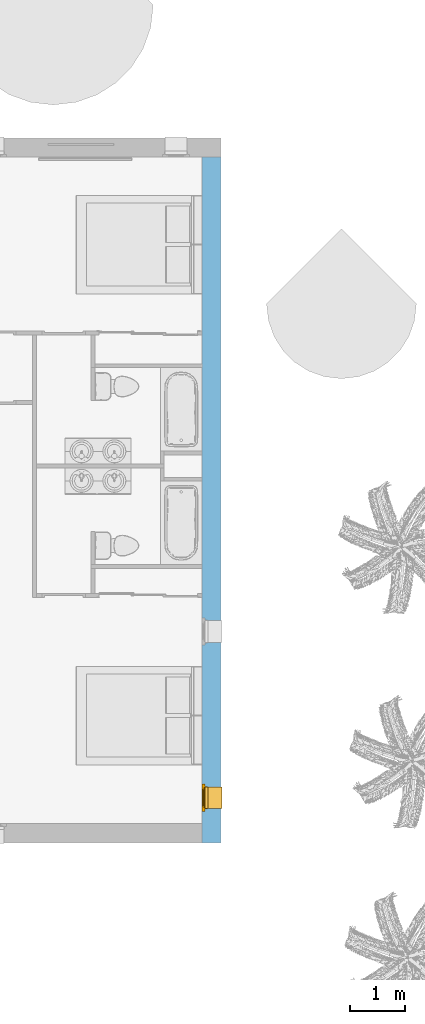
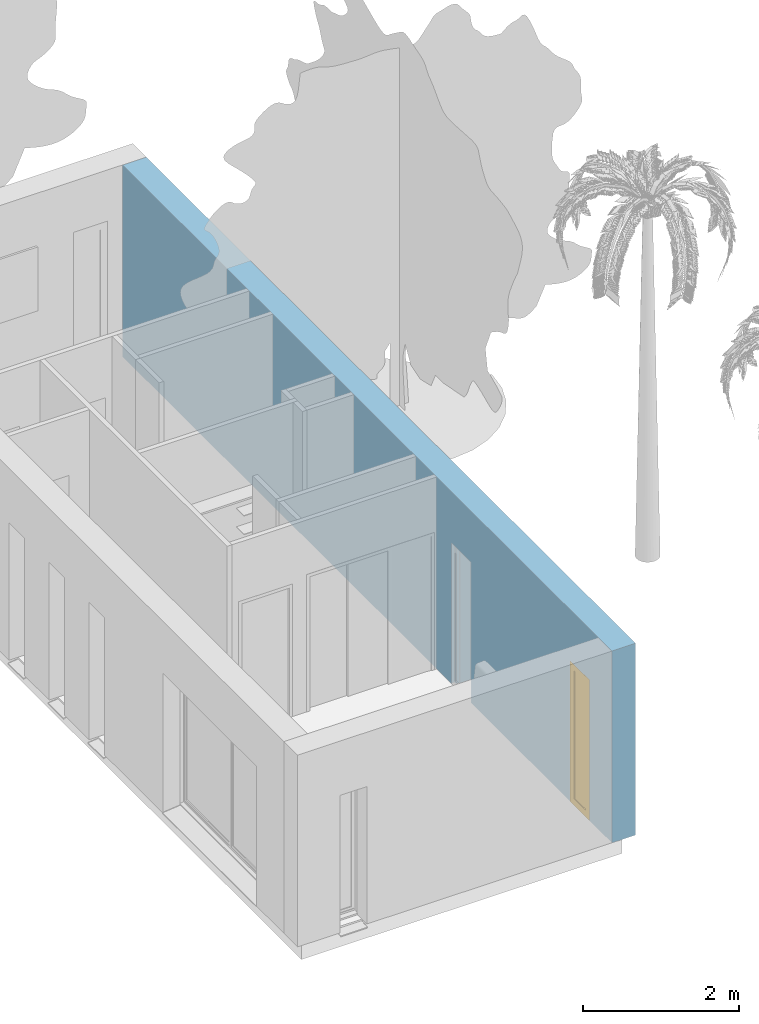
# One storey, part 16 of 40: 1 window, 2 openings, plus 1 element that does not belong to this part.
"""IFC2X3 building model written with IfcOpenShell, lengths in metres."""

from ifc_helpers import new_model, entity, si_unit, converted_unit, derived_unit, direction, frame, frame_2d, origin, place, context, subcontext, project, spatial, rectangle, extrude, faceted_brep, source, transform, mapped, material, material_list, layer, layer_set, layer_usage, type_object, type_shapes, element, fill, save


model = new_model("IFC2X3")

# Units and contexts
model_context = context("Model", 3, precision=1e-05, world=origin(), true_north=direction((6.12303176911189e-17, 1.0)))
body_context = subcontext(model_context, "Body", "Model", "MODEL_VIEW")
ifc_project = project(units=[si_unit("LENGTHUNIT", "METRE"), si_unit("AREAUNIT", "SQUARE_METRE"), si_unit("VOLUMEUNIT", "CUBIC_METRE"), converted_unit("PLANEANGLEUNIT", "DEGREE", entity("IfcRatioMeasure", 0.0174532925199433), si_unit("PLANEANGLEUNIT", "RADIAN"), dimensions=[0, 0, 0, 0, 0, 0, 0]), si_unit("MASSUNIT", "GRAM", prefix="KILO"), derived_unit("MASSDENSITYUNIT", [(si_unit("MASSUNIT", "GRAM", prefix="KILO"), 1), (si_unit("LENGTHUNIT", "METRE"), -3)]), si_unit("TIMEUNIT", "SECOND"), si_unit("FREQUENCYUNIT", "HERTZ"), si_unit("THERMODYNAMICTEMPERATUREUNIT", "DEGREE_CELSIUS"), derived_unit("THERMALTRANSMITTANCEUNIT", [(si_unit("MASSUNIT", "GRAM", prefix="KILO"), 1), (si_unit("THERMODYNAMICTEMPERATUREUNIT", "KELVIN"), -1), (si_unit("TIMEUNIT", "SECOND"), -3)]), derived_unit("VOLUMETRICFLOWRATEUNIT", [(si_unit("LENGTHUNIT", "METRE"), 3), (si_unit("TIMEUNIT", "SECOND"), -1)]), si_unit("ELECTRICCURRENTUNIT", "AMPERE"), si_unit("ELECTRICVOLTAGEUNIT", "VOLT"), si_unit("POWERUNIT", "WATT"), si_unit("FORCEUNIT", "NEWTON", prefix="KILO"), si_unit("ILLUMINANCEUNIT", "LUX"), si_unit("LUMINOUSFLUXUNIT", "LUMEN"), si_unit("LUMINOUSINTENSITYUNIT", "CANDELA"), derived_unit("USERDEFINED", [(si_unit("MASSUNIT", "GRAM", prefix="KILO"), -1), (si_unit("LENGTHUNIT", "METRE"), -2), (si_unit("TIMEUNIT", "SECOND"), 3), (si_unit("LUMINOUSFLUXUNIT", "LUMEN"), 1)]), derived_unit("LINEARVELOCITYUNIT", [(si_unit("LENGTHUNIT", "METRE"), 1), (si_unit("TIMEUNIT", "SECOND"), -1)]), si_unit("PRESSUREUNIT", "PASCAL"), derived_unit("USERDEFINED", [(si_unit("LENGTHUNIT", "METRE"), -2), (si_unit("MASSUNIT", "GRAM", prefix="KILO"), 1), (si_unit("TIMEUNIT", "SECOND"), -2)])], contexts=[model_context])

# Site, building, storey
site_placement = place(None, origin())
site = spatial("IfcSite", under=ifc_project, at=site_placement, Name="Surface", CompositionType="ELEMENT")
building_placement = place(site_placement, origin())
building = spatial("IfcBuilding", under=site, at=building_placement, CompositionType="ELEMENT")
storey_placement = place(building_placement, origin())
storey = spatial("IfcBuildingStorey", under=building, at=storey_placement, Name="RDC", CompositionType="ELEMENT", Elevation=-1.0941605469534e-13)

# Wall, openings, window
ifc_material_1 = material(Name="Bardage bois")
ifc_layer_1 = layer(ifc_material_1, 0.01)
ifc_material_2 = material(Name="Maçonnerie - Isolant")
ifc_layer_2 = layer(ifc_material_2, 0.12)
ifc_material_3 = material(Name="Blocs béton manufacturés")
ifc_layer_3 = layer(ifc_material_3, 0.2)
ifc_material_4 = material(Name="Par défaut")
ifc_layer_4 = layer(ifc_material_4, 0.01)
ifc_material_5 = material(Name="Plâtre")
ifc_layer_5 = layer(ifc_material_5, 0.01)
ifc_layer_set = layer_set([ifc_layer_1, ifc_layer_2, ifc_layer_3, ifc_layer_4, ifc_layer_5], Name="Mur de base:M8 Ext. Bois 2 + Isolant 12 +  BBMC 20 + vide 1 + ba13")
ifc_layer_usage = layer_usage(ifc_layer_set, "AXIS2", "NEGATIVE", 0.175)
wall_type = type_object("IfcWallType", Name="Mur de base:M8 Ext. Bois 2 + Isolant 12 +  BBMC 20 + vide 1 + ba13", PredefinedType="STANDARD", material=ifc_layer_set)
wall_placement = place(storey_placement, frame((16.6225111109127, 7.52701067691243, 0.0), z_axis=(0.0, 0.0, 1.0), x_axis=(0.0, -1.0, 0.0)))
wall = element("IfcWallStandardCase", 1, at=wall_placement, inside=storey, type_object=wall_type, material=ifc_layer_usage, Name="Mur de base:M8 Ext. Bois 2 + Isolant 12 +  BBMC 20 + vide 1 + ba13", ObjectType="Mur de base:M8 Ext. Bois 2 + Isolant 12 +  BBMC 20 + vide 1 + ba13", context=body_context, shape_type="SweptSolid", body=[
    extrude(rectangle(XDim=12.5399999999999, YDim=0.349999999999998, at=frame_2d((6.26999999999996, -2.91433543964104e-16), x_axis=(-1.0, 0.0))), origin(), (0.0, 0.0, 1.0), 2.99999999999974),
])
opening_1_placement = place(wall_placement, frame((11.9649999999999, -0.500000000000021, -0.0775370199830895), z_axis=(0.0, 0.0, 1.0), x_axis=(0.0, 1.0, 0.0)))
opening_1 = element("IfcOpeningElement", 2, at=opening_1_placement, cuts=wall, Name="Mur de base:M8 Ext. Bois 2 + Isolant 12 +  BBMC 20 + vide 1 + ba13", ObjectType="Opening", context=body_context, shape_type="Brep", body=[
    faceted_brep([(0.404999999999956, 0.0499999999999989, 0.077537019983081), (0.404999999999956, 0.0499999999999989, 0.062537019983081), (1.0, 0.0499999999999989, 0.0), (1.0, 0.0499999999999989, 2.22753701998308), (0.425000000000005, 0.0499999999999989, 2.22753701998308), (0.425000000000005, 0.0499999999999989, 0.0775370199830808), (0.0, 0.449999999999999, 0.077537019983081), (0.0, 0.449999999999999, 2.22753701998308), (0.325, 0.449999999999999, 2.22753701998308), (0.325, 0.449999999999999, 0.0775370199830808), (0.0, 0.0499999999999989, 0.077537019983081), (0.325000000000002, 0.499999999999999, 0.077537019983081), (0.375000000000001, 0.499999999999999, 0.077537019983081), (0.375000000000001, 0.459999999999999, 0.077537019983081), (0.425000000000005, 0.459999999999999, 0.077537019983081), (0.425000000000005, 0.449999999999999, 0.077537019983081), (0.404999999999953, 0.449999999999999, 0.0775370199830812), (0.425000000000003, 0.039999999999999, 0.077537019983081), (0.375000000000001, 0.039999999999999, 0.077537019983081), (0.375000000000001, 0.0, 0.077537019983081), (0.325000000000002, 0.0, 0.077537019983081), (0.325000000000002, 0.0499999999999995, 0.077537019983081), (0.0, 0.0499999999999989, 2.22753701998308), (0.325000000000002, 0.0499999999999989, 2.22753701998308), (1.0, 0.449999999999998, 0.0), (1.0, 0.449999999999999, 2.22753701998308), (0.404999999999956, 0.449999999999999, 0.062537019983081), (0.375000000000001, 0.0, 2.27753701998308), (0.325000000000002, 0.0, 2.27753701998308), (0.375000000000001, 0.039999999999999, 2.23753701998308), (0.375000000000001, 0.459999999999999, 2.23753701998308), (0.375000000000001, 0.499999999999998, 2.27753701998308), (0.425000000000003, 0.039999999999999, 2.23753701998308), (0.425000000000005, 0.449999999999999, 2.22753701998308), (0.425000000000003, 0.459999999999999, 2.23753701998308), (0.325000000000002, 0.499999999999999, 2.27753701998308)], [[[0, 1, 2, 3, 4, 5]], [[6, 7, 8, 9]], [[10, 6, 9, 11, 12, 13, 14, 15, 16, 0, 5, 17, 18, 19, 20, 21]], [[10, 22, 7, 6]], [[7, 22, 23, 8]], [[3, 2, 24, 25]], [[2, 1, 26, 24]], [[1, 0, 16, 26]], [[20, 19, 27, 28]], [[19, 18, 29, 30, 13, 12, 31, 27]], [[18, 17, 32, 29]], [[17, 5, 4, 33, 15, 14, 34, 32]], [[21, 20, 28, 35, 11, 9, 8, 23]], [[28, 27, 31, 35]], [[30, 29, 32, 34]], [[31, 12, 11, 35]], [[13, 30, 34, 14]], [[3, 25, 33, 4]], [[25, 24, 26, 16, 15, 33]], [[22, 10, 21, 23]]]),
])
opening_2_placement = place(wall_placement, frame((8.92499999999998, -0.500000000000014, -0.0775370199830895), z_axis=(0.0, 0.0, 1.0), x_axis=(0.0, 1.0, 0.0)))
element("IfcOpeningElement", 3, at=opening_2_placement, cuts=wall, Name="Mur de base:M8 Ext. Bois 2 + Isolant 12 +  BBMC 20 + vide 1 + ba13", ObjectType="Opening", context=body_context, shape_type="Brep", body=[
    faceted_brep([(0.404999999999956, 0.45, 0.077537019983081), (0.425000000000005, 0.45, 0.077537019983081), (0.425000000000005, 0.45, 2.22753701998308), (1.0, 0.449999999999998, 2.22753701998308), (1.0, 0.449999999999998, 0.0), (0.404999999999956, 0.45, 0.062537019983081), (0.0, 0.0500000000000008, 0.077537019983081), (0.325, 0.0499999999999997, 0.077537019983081), (0.325, 0.0499999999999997, 2.22753701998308), (0.0, 0.0500000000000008, 2.22753701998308), (0.0, 0.450000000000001, 0.077537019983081), (0.325000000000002, 0.45, 0.077537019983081), (0.325000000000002, 0.499999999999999, 0.077537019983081), (0.375000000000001, 0.499999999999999, 0.077537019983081), (0.375000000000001, 0.459999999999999, 0.077537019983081), (0.425000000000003, 0.459999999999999, 0.077537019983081), (0.404999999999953, 0.0499999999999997, 0.077537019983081), (0.425000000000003, 0.0499999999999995, 0.0775370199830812), (0.425000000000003, 0.0399999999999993, 0.077537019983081), (0.374999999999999, 0.0399999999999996, 0.077537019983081), (0.374999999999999, 0.0, 0.077537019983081), (0.325, 0.0, 0.077537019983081), (0.0, 0.450000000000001, 2.22753701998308), (0.425000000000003, 0.0499999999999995, 2.22753701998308), (1.0, 0.0499999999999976, 2.22753701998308), (1.0, 0.0499999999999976, 0.0), (0.404999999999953, 0.0499999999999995, 0.062537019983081), (0.325000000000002, 0.499999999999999, 2.27753701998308), (0.375000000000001, 0.499999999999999, 2.27753701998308), (0.375000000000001, 0.0, 2.27753701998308), (0.375000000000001, 0.0399999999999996, 2.23753701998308), (0.375000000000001, 0.459999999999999, 2.23753701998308), (0.425000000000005, 0.46, 2.23753701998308), (0.425000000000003, 0.0399999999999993, 2.23753701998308), (0.325000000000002, 0.45, 2.22753701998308), (0.325000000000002, 0.0, 2.27753701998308)], [[[0, 1, 2, 3, 4, 5]], [[6, 7, 8, 9]], [[10, 11, 12, 13, 14, 15, 1, 0, 16, 17, 18, 19, 20, 21, 7, 6]], [[10, 6, 9, 22]], [[3, 2, 23, 24]], [[3, 24, 25, 4]], [[4, 25, 26, 5]], [[5, 26, 16, 0]], [[12, 27, 28, 13]], [[13, 28, 29, 20, 19, 30, 31, 14]], [[14, 31, 32, 15]], [[15, 32, 33, 18, 17, 23, 2, 1]], [[11, 34, 8, 7, 21, 35, 27, 12]], [[27, 35, 29, 28]], [[30, 33, 32, 31]], [[29, 35, 21, 20]], [[19, 18, 33, 30]], [[9, 8, 34, 22]], [[24, 23, 17, 16, 26, 25]], [[22, 34, 11, 10]]]),
])
ifc_material_6 = material(Name="Fenêtre - Appui")
ifc_material_7 = material(Name="Fenêtre - Vitrage")
ifc_material_8 = material(Name="Fenêtre - Cadre")
ifc_material_list_1 = material_list([ifc_material_6, ifc_material_7, ifc_material_8])
ifc_material_list_2 = material_list([ifc_material_6, ifc_material_7, ifc_material_8])
window_style = type_object("IfcWindowStyle", Name="0.40m x2.15m", ConstructionType="NOTDEFINED", OperationType="SINGLE_PANEL", ParameterTakesPrecedence=False, Sizeable=False, material=ifc_material_list_2)
shared_shape = source(origin(), body_context, "Body", "Brep", [
    faceted_brep([(0.0500000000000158, 0.0400000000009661, 0.0378375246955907), (0.0500000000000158, 0.0400000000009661, 0.022281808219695), (0.0500000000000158, 0.035000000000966, 0.0228073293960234), (0.0500000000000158, 0.0350000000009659, 0.0331078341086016), (0.0500000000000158, -0.244999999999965, 0.0625370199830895), (0.0500000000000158, -0.244999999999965, 0.0775370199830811), (0.0500000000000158, -0.239999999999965, 0.0775370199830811), (0.0500000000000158, -0.239999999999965, 0.0672667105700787), (0.450000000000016, 0.0400000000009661, 0.0378375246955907), (0.450000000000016, -0.239999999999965, 0.0672667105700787), (0.450000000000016, -0.239999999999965, 0.0775370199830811), (0.450000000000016, -0.244999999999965, 0.0775370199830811), (0.450000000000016, -0.244999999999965, 0.0625370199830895), (0.450000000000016, 0.035000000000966, 0.0331078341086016), (0.450000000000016, 0.035000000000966, 0.0228073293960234), (0.450000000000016, 0.0400000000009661, 0.022281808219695)], [[[0, 1, 2, 3, 4, 5, 6, 7]], [[8, 9, 10, 11, 12, 13, 14, 15]], [[7, 9, 8, 0]], [[6, 10, 9, 7]], [[5, 11, 10, 6]], [[4, 12, 11, 5]], [[3, 13, 12, 4]], [[2, 14, 13, 3]], [[1, 15, 14, 2]], [[0, 8, 15, 1]]]),
    faceted_brep([(0.450000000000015, 0.0389725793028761, 0.0419399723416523), (0.450000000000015, 0.0364181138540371, 0.04324153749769), (0.450000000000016, -0.239999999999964, 0.0722942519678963), (0.450000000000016, -0.239999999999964, 0.0672667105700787), (0.450000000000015, 0.0400000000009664, 0.0378375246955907), (0.450000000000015, 0.0400000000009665, 0.0392634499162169), (0.445000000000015, 0.0364181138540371, 0.04324153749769), (0.445000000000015, 0.0389725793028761, 0.0419399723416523), (0.445000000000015, 0.0400000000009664, 0.0392634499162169), (0.445000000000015, 0.0400000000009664, 0.0378375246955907), (0.445000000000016, -0.239999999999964, 0.0672667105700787), (0.445000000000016, -0.239999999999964, 0.0722942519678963)], [[[0, 1, 2, 3, 4, 5]], [[6, 7, 8, 9, 10, 11]], [[9, 4, 3, 10]], [[10, 3, 2, 11]], [[11, 2, 1, 6]], [[0, 7, 6, 1]], [[5, 8, 7, 0]], [[8, 5, 4, 9]]]),
    faceted_brep([(0.0550000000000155, 0.0389725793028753, 0.0419399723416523), (0.0550000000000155, 0.0364181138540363, 0.04324153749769), (0.055000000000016, -0.239999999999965, 0.0722942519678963), (0.055000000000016, -0.239999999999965, 0.0672667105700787), (0.0550000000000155, 0.0400000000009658, 0.0378375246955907), (0.0550000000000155, 0.0400000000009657, 0.0392634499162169), (0.0500000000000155, 0.0364181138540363, 0.04324153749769), (0.0500000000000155, 0.0389725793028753, 0.0419399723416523), (0.0500000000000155, 0.0400000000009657, 0.0392634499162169), (0.0500000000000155, 0.0400000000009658, 0.0378375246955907), (0.0500000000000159, -0.239999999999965, 0.0672667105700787), (0.0500000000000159, -0.239999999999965, 0.0722942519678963)], [[[0, 1, 2, 3, 4, 5]], [[6, 7, 8, 9, 10, 11]], [[9, 4, 3, 10]], [[10, 3, 2, 11]], [[11, 2, 1, 6]], [[0, 7, 6, 1]], [[5, 8, 7, 0]], [[8, 5, 4, 9]]]),
    faceted_brep([(0.400000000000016, -0.299000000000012, 0.17753701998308), (0.100000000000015, -0.299000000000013, 0.17753701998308), (0.100000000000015, -0.299000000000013, 2.17753701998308), (0.400000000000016, -0.299000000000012, 2.17753701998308), (0.400000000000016, -0.311000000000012, 2.17753701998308), (0.400000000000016, -0.311000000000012, 0.17753701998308), (0.100000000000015, -0.311000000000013, 0.17753701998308), (0.100000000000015, -0.311000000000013, 2.17753701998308)], [[[0, 1, 2, 3]], [[3, 4, 5, 0]], [[1, 6, 7, 2]], [[0, 5, 6, 1]], [[5, 4, 7, 6]], [[2, 7, 4, 3]]]),
    faceted_brep([(0.400000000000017, -0.285000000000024, 2.17753701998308), (0.400000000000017, -0.285000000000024, 0.17753701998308), (0.400000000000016, -0.325000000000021, 0.17753701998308), (0.400000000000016, -0.325000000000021, 2.17753701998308), (0.100000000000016, -0.285000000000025, 0.17753701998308), (0.100000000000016, -0.325000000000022, 0.17753701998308), (0.100000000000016, -0.325000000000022, 2.17753701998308), (0.0500000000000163, -0.325000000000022, 0.127537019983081), (0.450000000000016, -0.325000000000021, 0.127537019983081), (0.450000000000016, -0.325000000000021, 2.22753701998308), (0.0500000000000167, -0.325000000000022, 2.22753701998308), (0.100000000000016, -0.285000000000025, 2.17753701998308), (0.450000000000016, -0.285000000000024, 0.127537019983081), (0.0500000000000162, -0.285000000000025, 0.127537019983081), (0.0500000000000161, -0.285000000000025, 2.22753701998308), (0.450000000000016, -0.285000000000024, 2.22753701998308)], [[[0, 1, 2, 3]], [[1, 4, 5, 2]], [[2, 5, 6, 3], [7, 8, 9, 10]], [[4, 11, 6, 5]], [[4, 1, 0, 11], [12, 13, 14, 15]], [[9, 8, 12, 15]], [[8, 7, 13, 12]], [[7, 10, 14, 13]], [[11, 0, 3, 6]], [[10, 9, 15, 14]]], outer=[[True], [True], [False, True], [True], [False, True], [True], [True], [True], [True], [True]]),
    faceted_brep([(0.500000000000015, -0.325, 0.0775370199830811), (0.0, -0.325, 0.0775370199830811), (0.0, -0.275000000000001, 0.0775370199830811), (0.0500000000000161, -0.275000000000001, 0.0775370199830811), (0.050000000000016, -0.225000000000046, 0.0775370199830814), (0.450000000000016, -0.225000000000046, 0.0775370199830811), (0.450000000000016, -0.275000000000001, 0.0775370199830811), (0.500000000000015, -0.275000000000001, 0.0775370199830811), (0.500000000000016, -0.275000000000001, 2.27753701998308), (0.500000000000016, -0.325, 2.27753701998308), (0.450000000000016, -0.275000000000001, 0.116913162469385), (0.0500000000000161, -0.275000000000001, 0.11691316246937), (0.0, -0.275000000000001, 2.27753701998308), (0.435000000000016, -0.275000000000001, 2.21253701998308), (0.0650000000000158, -0.275000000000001, 2.21253701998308), (0.0650000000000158, -0.275000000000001, 0.142537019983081), (0.435000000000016, -0.275000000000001, 0.142537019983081), (0.450000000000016, -0.225000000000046, 0.0725370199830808), (0.450000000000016, -0.215000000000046, 0.0725370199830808), (0.450000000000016, -0.215000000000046, 0.100836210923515), (0.050000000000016, -0.225000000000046, 0.0725370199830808), (0.050000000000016, -0.215000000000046, 0.100836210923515), (0.050000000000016, -0.215000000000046, 0.0725370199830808), (0.0, -0.325, 2.27753701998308), (0.0500000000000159, -0.325, 2.22753701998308), (0.450000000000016, -0.325, 2.22753701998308), (0.450000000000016, -0.325, 0.127537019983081), (0.0500000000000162, -0.325000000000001, 0.127537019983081), (0.435000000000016, -0.285000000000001, 0.142537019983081), (0.435000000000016, -0.285000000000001, 2.21253701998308), (0.0650000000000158, -0.285000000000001, 0.142537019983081), (0.0650000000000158, -0.285000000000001, 2.21253701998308), (0.0500000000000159, -0.285000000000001, 2.22753701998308), (0.0500000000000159, -0.285000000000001, 0.127537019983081), (0.450000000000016, -0.285000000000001, 0.127537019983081), (0.450000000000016, -0.285000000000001, 2.22753701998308)], [[[0, 1, 2, 3, 4, 5, 6, 7]], [[7, 8, 9, 0]], [[7, 6, 10, 11, 3, 2, 12, 8], [13, 14, 15, 16]], [[10, 6, 5, 17, 18, 19]], [[5, 4, 20, 17]], [[4, 3, 11, 21, 22, 20]], [[2, 1, 23, 12]], [[0, 9, 23, 1], [24, 25, 26, 27]], [[13, 16, 28, 29]], [[28, 16, 15, 30]], [[31, 30, 15, 14]], [[19, 21, 11, 10]], [[29, 28, 30, 31], [32, 33, 34, 35]], [[34, 26, 25, 35]], [[26, 34, 33, 27]], [[24, 27, 33, 32]], [[18, 22, 21, 19]], [[17, 20, 22, 18]], [[13, 29, 31, 14]], [[12, 23, 9, 8]], [[35, 25, 24, 32]]], outer=[[True], [True], [True, False], [True], [True], [True], [True], [True, False], [True], [True], [True], [True], [False, True], [True], [True], [True], [True], [True], [True], [True], [True]]),
    faceted_brep([(0.450000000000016, -0.224999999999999, 0.0775370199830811), (0.460000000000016, -0.224999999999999, 0.0775370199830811), (0.460000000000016, -0.275000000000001, 0.0775370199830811), (0.450000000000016, -0.275000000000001, 0.0775370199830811), (0.450000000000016, -0.275000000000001, 2.22753701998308), (0.450000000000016, -0.224999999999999, 2.22753701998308), (0.460000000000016, -0.275000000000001, 2.23753701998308), (0.0400000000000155, -0.275000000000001, 2.23753701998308), (0.0400000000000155, -0.275000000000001, 0.0775370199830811), (0.0500000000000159, -0.275000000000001, 0.0775370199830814), (0.0500000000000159, -0.275000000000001, 2.22753701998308), (0.460000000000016, -0.224999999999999, 2.23753701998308), (0.0500000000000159, -0.224999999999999, 2.22753701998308), (0.0500000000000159, -0.224999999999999, 0.0775370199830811), (0.0400000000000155, -0.224999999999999, 0.0775370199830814), (0.0400000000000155, -0.224999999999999, 2.23753701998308)], [[[0, 1, 2, 3]], [[3, 4, 5, 0]], [[2, 6, 7, 8, 9, 10, 4, 3]], [[1, 11, 6, 2]], [[0, 5, 12, 13, 14, 15, 11, 1]], [[10, 9, 13, 12]], [[13, 9, 8, 14]], [[15, 14, 8, 7]], [[4, 10, 12, 5]], [[11, 15, 7, 6]]]),
])
type_shapes(window_style, [shared_shape])
window_placement = place(opening_1_placement, frame((0.650000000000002, 0.500000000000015, 0.0), z_axis=(0.0, 0.0, 1.0), x_axis=(0.0, -1.0, 0.0)))
window = element("IfcWindow", 4, at=window_placement, inside=storey, type_object=window_style, material=ifc_material_list_1, Name="1 Vantail - Droit:0.40m x2.15m", ObjectType="0.40m x2.15m", OverallHeight=2.28, OverallWidth=0.5, context=body_context, shape_type="MappedRepresentation", body=[
    mapped(shared_shape, transform((0.0, 0.0, 0.0), scale=1.0)),
])
fill(opening_1, window)

save(model, "model.ifc")
